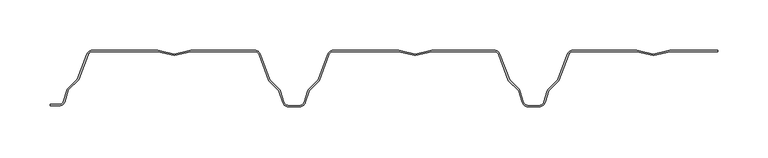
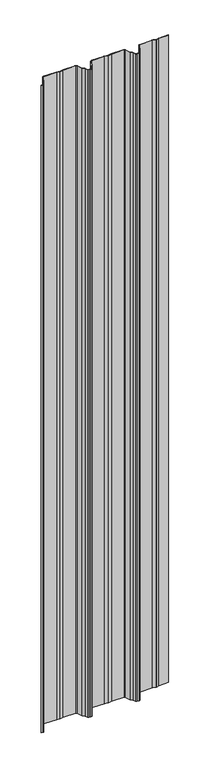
"""IFC4 building model written with IfcOpenShell, lengths in millimetres: plate geometry, HIANSA- H20.F08.006-CHAPA PERFILADA CUBIERTA - MT56 DECK - Panel de Muro Cortina : -."""

from ifc_helpers import new_model, si_unit, point, frame_2d, origin, origin_with_axes, place, context, project, spatial, polyline, circle_curve, trimmed, segment, composite_curve, outline, extrude, source, transform, mapped, element, save


def plate_ea0b20f8(model_context):
    return source(origin(), model_context, "Body", "SweptSolid", [
        extrude(outline(composite_curve([segment(trimmed(circle_curve(frame_2d((35.5114195, 54.0787372)), 3.0), [point((36.1864012, 51.1556567))], [point((34.838135, 51.1552653))], False, "CARTESIAN"), True, "CONTINUOUS"), segment(polyline([(34.838135, 51.1552653), (19.0123132, 54.8), (-45.5917417, 54.8)]), True, "CONTINUOUS"), segment(trimmed(circle_curve(frame_2d((-45.5917417, 50.0)), 4.8), [point((-45.5917417, 54.8))], [point((-50.0830459, 51.6935723))], True, "CARTESIAN"), True, "CONTINUOUS"), segment(polyline([(-50.0830459, 51.6935723), (-59.7771179, 25.9851779), (-69.7622957, 16.0), (-73.4465613, 4.21035)]), True, "CONTINUOUS"), segment(trimmed(circle_curve(frame_2d((-79.1734412, 6.0)), 6.0), [point((-73.4465613, 4.21035))], [point((-79.1734412, 0.0))], False, "CARTESIAN"), True, "CONTINUOUS"), segment(polyline([(-79.1734412, 0.0), (-90.3511502, 0.0)]), True, "CONTINUOUS"), segment(trimmed(circle_curve(frame_2d((-90.3511502, 6.0)), 6.0), [point((-90.3511502, 0.0))], [point((-96.0780301, 4.21035))], False, "CARTESIAN"), True, "CONTINUOUS"), segment(polyline([(-96.0780301, 4.21035), (-99.7622957, 16.0), (-109.7474736, 25.9851779), (-119.4415456, 51.6935723)]), True, "CONTINUOUS"), segment(trimmed(circle_curve(frame_2d((-123.9328497, 50.0)), 4.8), [point((-119.4415456, 51.6935723))], [point((-123.9328497, 54.8))], True, "CARTESIAN"), True, "CONTINUOUS"), segment(polyline([(-123.9328497, 54.8), (-187.3059899, 54.8), (-203.0882078, 51.1556567)]), True, "CONTINUOUS"), segment(trimmed(circle_curve(frame_2d((-203.7631895, 54.0787372)), 3.0), [point((-203.0882078, 51.1556567))], [point((-204.4364739, 51.1552653))], False, "CARTESIAN"), True, "CONTINUOUS"), segment(polyline([(-204.4364739, 51.1552653), (-220.2622957, 54.8), (-284.8656728, 54.8)]), True, "CONTINUOUS"), segment(trimmed(circle_curve(frame_2d((-284.8656728, 50.0)), 4.8), [point((-284.8656728, 54.8))], [point((-289.3560904, 51.6959213))], True, "CARTESIAN"), True, "CONTINUOUS"), segment(polyline([(-289.3560904, 51.6959213), (-298.8189493, 26.6404027), (-308.8276466, 16.6317054), (-312.5964175, 4.5686077)]), True, "CONTINUOUS"), segment(trimmed(circle_curve(frame_2d((-317.1780238, 6.0)), 4.8), [point((-312.5964175, 4.5686077))], [point((-317.1780238, 1.2))], False, "CARTESIAN"), True, "CONTINUOUS"), segment(polyline([(-317.1780238, 1.2), (-326.7974957, 1.2), (-326.7974957, 2.4), (-317.202504, 2.4)]), True, "CONTINUOUS"), segment(trimmed(circle_curve(frame_2d((-317.202504, 6.0)), 3.6), [point((-317.202504, 2.4))], [point((-313.7683695, 4.9198518))], True, "CARTESIAN"), True, "CONTINUOUS"), segment(polyline([(-313.7683695, 4.9198518), (-309.882664, 17.2737442), (-299.8495661, 27.3068422), (-290.4976663, 52.1163287)]), True, "CONTINUOUS"), segment(trimmed(circle_curve(frame_2d((-284.8832961, 50.0)), 6.0), [point((-290.4976663, 52.1163287))], [point((-284.8832961, 56.0))], False, "CARTESIAN"), True, "CONTINUOUS"), segment(polyline([(-284.8832961, 56.0), (-220.1258991, 56.0), (-203.7626532, 52.2314949), (-187.4427394, 56.0), (-123.9155654, 56.0)]), True, "CONTINUOUS"), segment(trimmed(circle_curve(frame_2d((-123.9155654, 50.0)), 6.0), [point((-123.9155654, 56.0))], [point((-118.3001489, 52.1135511))], False, "CARTESIAN"), True, "CONTINUOUS"), segment(polyline([(-118.3001489, 52.1135511), (-108.7165935, 26.651354), (-99.2095386, 17.1442991)]), True, "CONTINUOUS"), segment(trimmed(circle_curve(frame_2d((-101.2601482, 15.0936894)), 2.9), [point((-99.2095386, 17.1442991))], [point((-98.4921563, 15.9586869))], False, "CARTESIAN"), True, "CONTINUOUS"), segment(polyline([(-98.4921563, 15.9586869), (-94.9326541, 4.56828)]), True, "CONTINUOUS"), segment(trimmed(circle_curve(frame_2d((-90.3511502, 6.0)), 4.8), [point((-94.9326541, 4.56828))], [point((-90.3511502, 1.2))], True, "CARTESIAN"), True, "CONTINUOUS"), segment(polyline([(-90.3511502, 1.2), (-79.1734412, 1.2)]), True, "CONTINUOUS"), segment(trimmed(circle_curve(frame_2d((-79.1734412, 6.0)), 4.8), [point((-79.1734412, 1.2))], [point((-74.5919373, 4.56828))], True, "CARTESIAN"), True, "CONTINUOUS"), segment(polyline([(-74.5919373, 4.56828), (-71.0324351, 15.9586869)]), True, "CONTINUOUS"), segment(trimmed(circle_curve(frame_2d((-68.2644432, 15.0936894)), 2.9), [point((-71.0324351, 15.9586869))], [point((-70.3150529, 17.1442991))], False, "CARTESIAN"), True, "CONTINUOUS"), segment(polyline([(-70.3150529, 17.1442991), (-60.8079979, 26.651354), (-51.2244425, 52.1135511)]), True, "CONTINUOUS"), segment(trimmed(circle_curve(frame_2d((-45.6090261, 50.0)), 6.0), [point((-51.2244425, 52.1135511))], [point((-45.6090261, 56.0))], False, "CARTESIAN"), True, "CONTINUOUS"), segment(polyline([(-45.6090261, 56.0), (19.1483709, 56.0), (35.5116168, 52.2314949), (51.8315306, 56.0), (114.0844346, 56.0)]), True, "CONTINUOUS"), segment(trimmed(circle_curve(frame_2d((114.0844346, 50.0)), 6.0), [point((114.0844346, 56.0))], [point((119.6998511, 52.1135511))], False, "CARTESIAN"), True, "CONTINUOUS"), segment(polyline([(119.6998511, 52.1135511), (129.2834065, 26.651354), (138.7904614, 17.1442991)]), True, "CONTINUOUS"), segment(trimmed(circle_curve(frame_2d((136.7398518, 15.0936894)), 2.9), [point((138.7904614, 17.1442991))], [point((139.5078437, 15.9586869))], False, "CARTESIAN"), True, "CONTINUOUS"), segment(polyline([(139.5078437, 15.9586869), (143.0673459, 4.56828)]), True, "CONTINUOUS"), segment(trimmed(circle_curve(frame_2d((147.6488498, 6.0)), 4.8), [point((143.0673459, 4.56828))], [point((147.6488498, 1.2))], True, "CARTESIAN"), True, "CONTINUOUS"), segment(polyline([(147.6488498, 1.2), (158.8265588, 1.2)]), True, "CONTINUOUS"), segment(trimmed(circle_curve(frame_2d((158.8265588, 6.0)), 4.8), [point((158.8265588, 1.2))], [point((163.4080627, 4.56828))], True, "CARTESIAN"), True, "CONTINUOUS"), segment(polyline([(163.4080627, 4.56828), (166.9675649, 15.9586869)]), True, "CONTINUOUS"), segment(trimmed(circle_curve(frame_2d((169.7355568, 15.0936894)), 2.9), [point((166.9675649, 15.9586869))], [point((167.6849471, 17.1442991))], False, "CARTESIAN"), True, "CONTINUOUS"), segment(polyline([(167.6849471, 17.1442991), (177.1920021, 26.651354), (186.7755575, 52.1135511)]), True, "CONTINUOUS"), segment(trimmed(circle_curve(frame_2d((192.3909739, 50.0)), 6.0), [point((186.7755575, 52.1135511))], [point((192.3909739, 56.0))], False, "CARTESIAN"), True, "CONTINUOUS"), segment(polyline([(192.3909739, 56.0), (255.8732299, 56.0000001), (272.2364758, 52.231495), (288.5563897, 56.0000001), (335.9999998, 56.0), (335.9999998, 54.8), (288.6931391, 54.8000001), (272.9109213, 51.1556568)]), True, "CONTINUOUS"), segment(trimmed(circle_curve(frame_2d((272.2359396, 54.0787373)), 3.0), [point((272.9109213, 51.1556568))], [point((271.5626551, 51.1552654))], False, "CARTESIAN"), True, "CONTINUOUS"), segment(polyline([(271.5626551, 51.1552654), (255.7368333, 54.8000001), (192.4085972, 54.8)]), True, "CONTINUOUS"), segment(trimmed(circle_curve(frame_2d((192.4085972, 50.0)), 4.8), [point((192.4085972, 54.8))], [point((187.9172931, 51.6935723))], True, "CARTESIAN"), True, "CONTINUOUS"), segment(polyline([(187.9172931, 51.6935723), (178.2232211, 25.9851779), (168.2380433, 16.0), (164.5537776, 4.21035)]), True, "CONTINUOUS"), segment(trimmed(circle_curve(frame_2d((158.8268978, 6.0)), 6.0), [point((164.5537776, 4.21035))], [point((158.8268978, 0.0))], False, "CARTESIAN"), True, "CONTINUOUS"), segment(polyline([(158.8268978, 0.0), (147.6491887, 0.0)]), True, "CONTINUOUS"), segment(trimmed(circle_curve(frame_2d((147.6491887, 6.0)), 6.0), [point((147.6491887, 0.0))], [point((141.9223089, 4.21035))], False, "CARTESIAN"), True, "CONTINUOUS"), segment(polyline([(141.9223089, 4.21035), (138.2380433, 16.0), (128.2528654, 25.9851779), (118.5587934, 51.6935723)]), True, "CONTINUOUS"), segment(trimmed(circle_curve(frame_2d((114.0674893, 50.0)), 4.8), [point((118.5587934, 51.6935723))], [point((114.0674893, 54.8))], True, "CARTESIAN"), True, "CONTINUOUS"), segment(polyline([(114.0674893, 54.8), (51.968619, 54.8), (36.1864012, 51.1556567)]), True, "CONTINUOUS")], self_intersect=False)), origin_with_axes(), (0.0, 0.0, 1.0), 3390.8509027),
    ])


if __name__ == "__main__":
    model = new_model("IFC4")
    model_context = context("Model", 3, world=origin())
    ifc_project = project(units=[si_unit("LENGTHUNIT", "METRE", prefix="MILLI")], contexts=[model_context])
    site = spatial("IfcSite", under=ifc_project)
    building = spatial("IfcBuilding", under=site)
    placement = place(None, origin())
    plate_shape = plate_ea0b20f8(model_context)
    element("IfcPlate", 1, ObjectType="HIANSA- H20.F08.006-CHAPA PERFILADA CUBIERTA - MT56 DECK - Panel de Muro Cortina : -", at=placement, inside=building, context=model_context, shape_type="MappedRepresentation", body=[
        mapped(plate_shape, transform((0.0, 0.0, 0.0), x_axis=(1.0, 0.0, 0.0), y_axis=(0.0, 1.0, 0.0), z_axis=(0.0, 0.0, 1.0))),
    ])
    save(model, "model.ifc")
